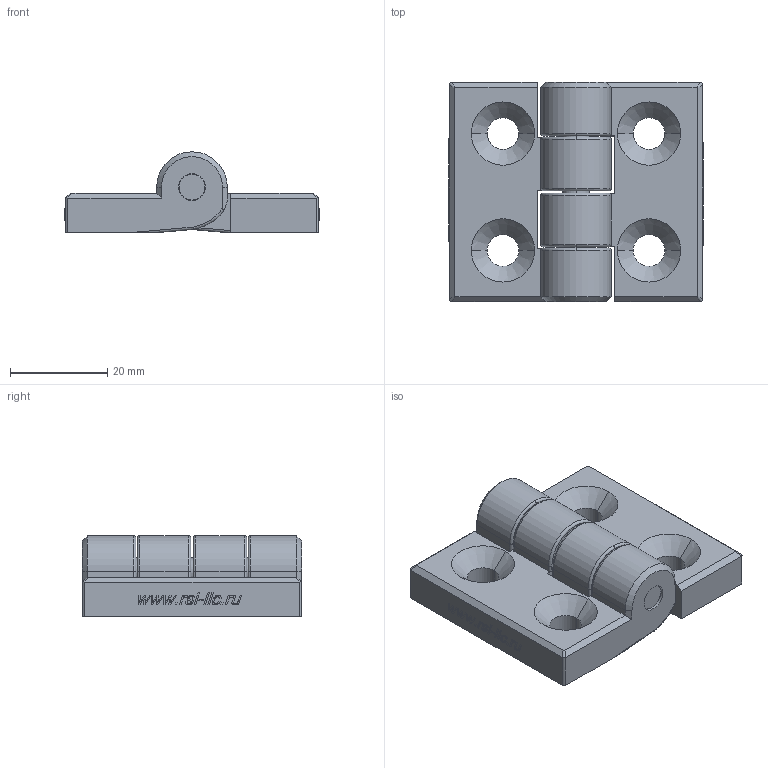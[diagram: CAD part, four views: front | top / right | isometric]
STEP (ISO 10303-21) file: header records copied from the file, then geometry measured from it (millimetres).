
FILE_DESCRIPTION (( 'STEP AP214' ), '1' );
FILE_NAME ('3013.STEP', '2020-08-18T12:59:36', ( '' ), ( '' ), 'SwSTEP 2.0', 'SolidWorks 2018', '' );
FILE_SCHEMA (( 'AUTOMOTIVE_DESIGN' ));
Length unit declared in the file: millimetre
Products named in the file (1): 3013
Bounding box: 52.2 x 45 x 16.5 mm (x, y, z)
Volume: 19678.9 mm3; surface area: 10458.6 mm2
Topology: 3 solids, 3 shells, 464 faces, 1242 edges, 816 vertices
Faces by surface type: plane 306, bspline 84, cylinder 50, torus 14, cone 10
Entity records: 23950 total; most frequent: CARTESIAN_POINT 7751, ORIENTED_EDGE 2484, DIRECTION 1906, EDGE_CURVE 1242, LINE 932, VECTOR 932, VERTEX_POINT 816, EDGE_LOOP 512
